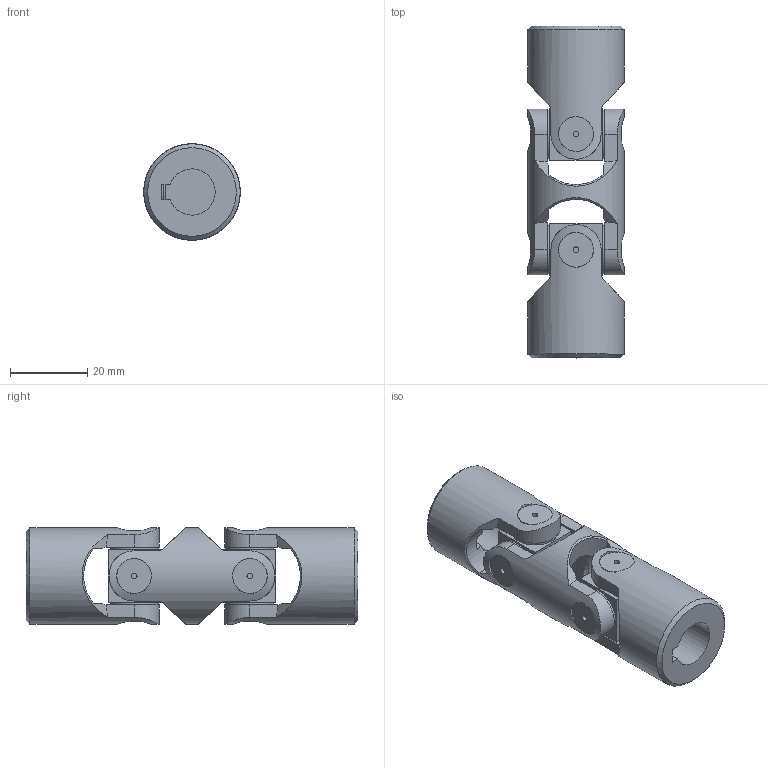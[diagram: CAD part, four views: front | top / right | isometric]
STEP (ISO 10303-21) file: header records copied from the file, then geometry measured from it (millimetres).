
FILE_DESCRIPTION(/* description */ (''),/* implementation_level */ '2;1');
FILE_NAME(/* name */ '\\SRV2016\Societa\Stefano\Disegni 3D\00Catalogo 3D\02Doppi GD-GBD\SG0D122C.stp',/* time_stamp */ '2021-11-22T17:13:50+01:00',/* author */ ('acquisti'),/* organization */ (''),/* preprocessor_version */ 'ST-DEVELOPER v15.6',/* originating_system */ 'Autodesk Inventor 2015',/* authorisation */ '');
FILE_SCHEMA (('AUTOMOTIVE_DESIGN { 1 0 10303 214 3 1 1 }'));
Length unit declared in the file: millimetre
Products named in the file (4): 04G MOD; 04G SFE; 04G MOC; Ø25_04GD-00_SG0D1200
Assembly tree (5 placements, depth 2):
  Ø25_04GD-00_SG0D1200
    04G MOD
    04G SFE  x2
    04G MOC  x2
Bounding box: 25 x 86 x 25 mm (x, y, z)
Volume: 27527 mm3; surface area: 13634 mm2
Topology: 5 solids, 5 shells, 167 faces, 397 edges, 260 vertices
Faces by surface type: plane 76, cylinder 65, cone 22, torus 4
Full cylindrical faces by diameter (mm): 1.5 x8, 12.5 x8, 13 x2, 25 x3
Entity records: 3906 total; most frequent: CARTESIAN_POINT 1356, ORIENTED_EDGE 512, DIRECTION 485, EDGE_CURVE 256, AXIS2_PLACEMENT_3D 214, VERTEX_POINT 180, EDGE_LOOP 152, FACE_OUTER_BOUND 115
